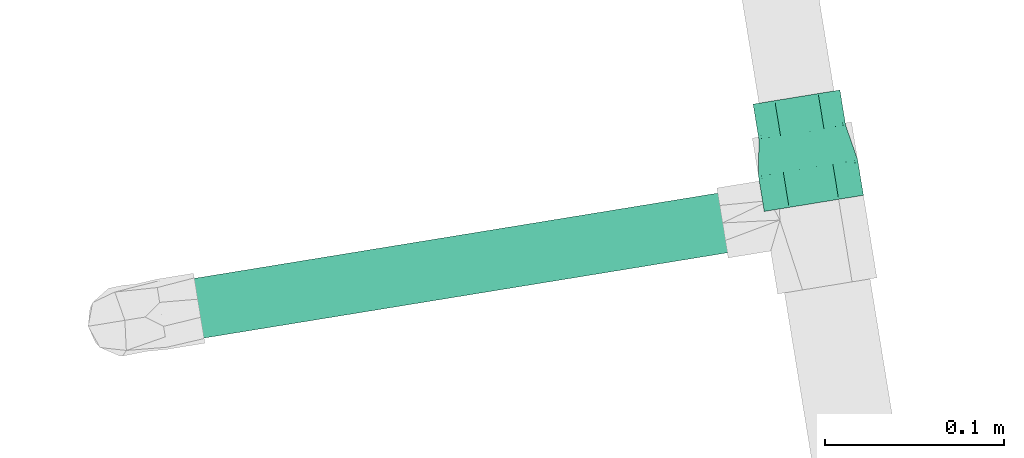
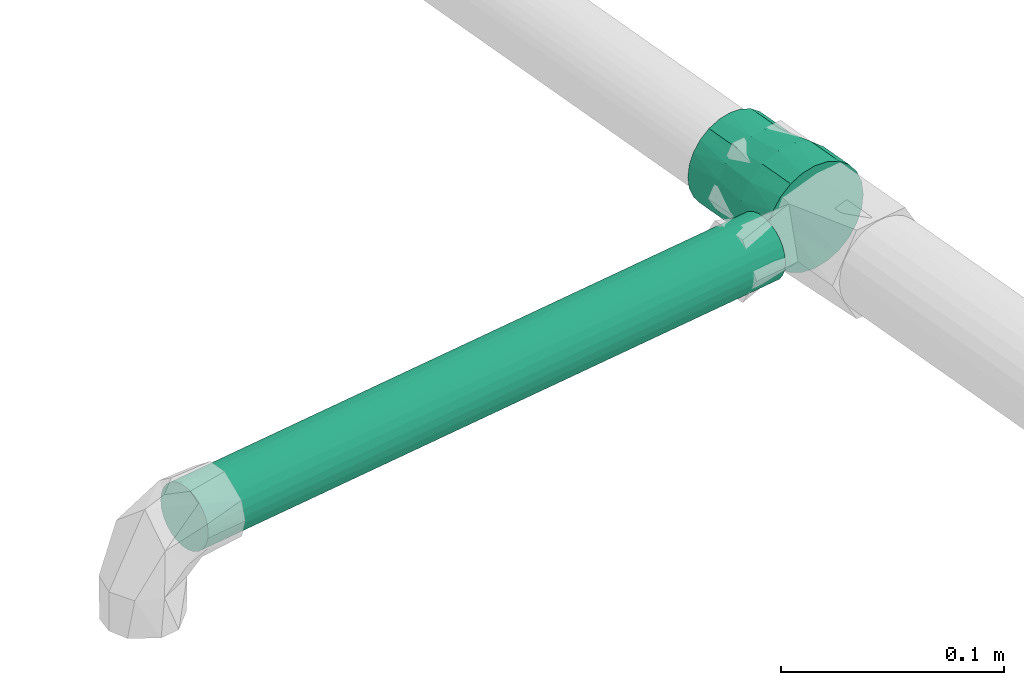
# One storey, part 29 of 56: 1 flow fitting, 1 flow segment.
"""IFC2X3 building model written with IfcOpenShell, lengths in millimetres."""

from ifc_helpers import new_model, entity, si_unit, converted_unit, derived_unit, direction, frame, origin, origin_with_axes, origin_2d_with_axis, place, context, subcontext, project, spatial, circle, extrude, faceted_brep, source, transform, mapped, material, type_object, element, save


model = new_model("IFC2X3")

# Units and contexts
model_context = context("Model", 3, precision=0.01, world=origin(), true_north=direction((6.12323399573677e-17, 1.0)))
plan_context = context("Plan", 3, precision=1e-05, world=origin_with_axes())
body_context = subcontext(model_context, "Body", "Model", "MODEL_VIEW")
ifc_project = project(units=[converted_unit("PLANEANGLEUNIT", "DEGREE", entity("IfcPositiveLengthMeasure", 0.0174532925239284), si_unit("PLANEANGLEUNIT", "RADIAN"), dimensions=[0, 0, 0, 0, 0, 0, 0]), si_unit("AREAUNIT", "SQUARE_METRE"), si_unit("LENGTHUNIT", "METRE", prefix="MILLI"), si_unit("MASSUNIT", "GRAM", prefix="KILO"), si_unit("POWERUNIT", "WATT"), si_unit("PRESSUREUNIT", "PASCAL", prefix="KILO"), si_unit("FORCEUNIT", "NEWTON", prefix="KILO"), si_unit("ELECTRICVOLTAGEUNIT", "VOLT"), si_unit("ELECTRICCURRENTUNIT", "AMPERE"), si_unit("THERMODYNAMICTEMPERATUREUNIT", "DEGREE_CELSIUS"), si_unit("TIMEUNIT", "SECOND"), si_unit("VOLUMEUNIT", "CUBIC_METRE"), derived_unit("LINEARVELOCITYUNIT", [(si_unit("LENGTHUNIT", "METRE"), 1), (si_unit("TIMEUNIT", "SECOND"), -1)]), derived_unit("VOLUMETRICFLOWRATEUNIT", [(si_unit("VOLUMEUNIT", "CUBIC_METRE"), 1), (si_unit("TIMEUNIT", "SECOND"), -1)]), derived_unit("THERMALTRANSMITTANCEUNIT", [(si_unit("POWERUNIT", "WATT"), 1), (si_unit("THERMODYNAMICTEMPERATUREUNIT", "KELVIN"), -1), (si_unit("AREAUNIT", "SQUARE_METRE"), -1)]), derived_unit("SOUNDPRESSUREUNIT", [(si_unit("PRESSUREUNIT", "PASCAL"), 1)])], contexts=[model_context, plan_context])

# Site, building, storey
site_placement = place(None, frame((-3.09682673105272e-06, 1.93776733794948e-05, 0.0), z_axis=(0.0, 0.0, 1.0), x_axis=(-0.160806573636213, 0.986985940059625, 0.0)))
site = spatial("IfcSite", under=ifc_project, at=site_placement, Name="Default", CompositionType="ELEMENT")
building_placement = place(site_placement, frame((0.0, 0.0, 0.0), z_axis=(0.0, 0.0, 1.0), x_axis=(1.0, -2.77555756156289e-17, 0.0)))
building = spatial("IfcBuilding", under=site, at=building_placement, Name="Bygning (endres i Project Information)", CompositionType="ELEMENT")
storey_placement = place(building_placement, frame((0.0, 0.0, 51360.0000000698), z_axis=(0.0, 0.0, 1.0), x_axis=(1.0, -2.77555756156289e-17, 0.0)))
storey = spatial("IfcBuildingStorey", under=building, at=storey_placement, Name="H01-Nivå D+0,36", CompositionType="ELEMENT", Elevation=51360.0000000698)

# Flow fitting
ifc_material = material(Name="3320.001")
pipe_fitting_type = type_object("IfcPipeFittingType", Name="RS_53_PIF_UN_Reducing-Socket-EN10241_MC_gen:RS_53_PIF_UN_Reducing-Socket-EN10241_MC_gen", PredefinedType="NOTDEFINED", material=ifc_material)
shared_shape = source(origin(), body_context, "Body", "Brep", [
    faceted_brep([(0.0, 19.7989898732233, 19.7989898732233), (0.0, 24.2487113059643, 14.0), (0.0, 27.0459231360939, 7.24693326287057), (0.0, 28.0, 0.0), (0.0, 27.0459231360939, -7.24693326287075), (0.0, 24.2487113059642, -14.0), (0.0, 19.7989898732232, -19.7989898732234), (0.0, 14.0, -24.2487113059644), (0.0, 7.24693326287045, -27.0459231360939), (0.0, 0.0, -28.0), (0.0, -7.2469332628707, -27.0459231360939), (0.0, -14.0, -24.2487113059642), (0.0, -19.7989898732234, -19.7989898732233), (0.0, -24.2487113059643, -14.0), (0.0, -27.0459231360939, -7.24693326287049), (0.0, -28.0, 0.0), (0.0, -27.0459231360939, 7.24693326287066), (0.0, -24.2487113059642, 14.0), (0.0, -19.7989898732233, 19.7989898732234), (0.0, -14.0, 24.2487113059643), (0.0, -7.24693326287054, 27.0459231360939), (0.0, 0.0, 28.0), (0.0, 7.24693326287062, 27.0459231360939), (0.0, 14.0, 24.2487113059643), (20.0, -9.43067316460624, -25.9117989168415), (20.0, -21.4490865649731, -17.9982411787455), (20.0, -23.8802189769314, -13.7874602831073), (20.0, -26.3113513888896, -9.57667938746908), (20.0, -13.9996810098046, -24.248895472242), (20.0, -17.7243837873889, -21.1235683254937), (20.0, -27.1556756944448, -4.78833969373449), (20.0, -4.86166531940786, -27.5747023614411), (20.0, 4.86275354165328, -27.5745104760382), (20.0, 0.000544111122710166, -27.5746064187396), (20.0, -28.0, 0.0), (20.0, 9.43169575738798, -25.9114267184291), (20.0, 14.0006379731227, -24.2483429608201), (20.0, 26.3117293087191, -9.57564101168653), (20.0, 23.8807630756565, -13.7865178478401), (20.0, 21.449796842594, -17.9973946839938), (20.0, 17.7252174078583, -21.122868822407), (20.0, 28.0, 0.0), (20.0, 21.4497968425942, 17.9973946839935), (20.0, 23.8807630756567, 13.7865178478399), (20.0, 26.3117293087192, 9.57564101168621), (20.0, 14.0006379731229, 24.24834296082), (20.0, 17.7252174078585, 21.1228688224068), (20.0, 4.86275354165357, 27.5745104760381), (20.0, 9.43169575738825, 25.9114267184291), (20.0, -4.86166531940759, 27.5747023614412), (20.0, 0.000544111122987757, 27.5746064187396), (20.0, -27.1556756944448, 4.78833969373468), (20.0, -9.43067316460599, 25.9117989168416), (20.0, -13.9996810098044, 24.2488954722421), (20.0, -17.7243837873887, 21.1235683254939), (20.0, -21.449086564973, 17.9982411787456), (20.0, -26.3113513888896, 9.57667938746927), (20.0, -23.8802189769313, 13.7874602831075), (40.0, 24.5000000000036, 0.0), (40.0, 23.0225328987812, -8.37931852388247), (40.0, 18.7681935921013, -15.7481716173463), (40.0, -12.2499395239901, -21.2176573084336), (40.0, -15.5089992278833, -18.482994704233), (40.0, 12.2501209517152, -21.2175525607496), (40.0, 20.8953632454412, -12.0637450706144), (40.0, 15.5091572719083, -18.4828620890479), (40.0, 4.25449497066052, -24.1277697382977), (40.0, 0.000103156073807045, -24.1277879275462), (40.0, 8.25230796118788, -22.6726611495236), (40.0, -4.25428865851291, -24.1278061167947), (40.0, -8.25211409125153, -22.6727317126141), (40.0, -18.7680589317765, -15.7483321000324), (40.0, -20.8952600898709, -12.0639237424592), (40.0, -23.6863464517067, -4.61444575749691), (40.0, -23.0224612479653, -8.37951538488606), (40.0, -23.7612306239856, -4.18975769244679), (40.0, -24.4999999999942, 0.0), (40.0, -23.7612306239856, 4.1897576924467), (40.0, -23.6863464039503, 4.61444602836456), (40.0, -12.2499395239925, 21.2176573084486), (40.0, 15.509157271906, 18.4828620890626), (40.0, 12.250120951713, 21.2175525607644), (40.0, -20.8952600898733, 12.0639237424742), (40.0, -18.7680589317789, 15.7483321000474), (40.0, -4.2542886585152, 24.1278061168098), (40.0, -15.5089992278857, 18.482994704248), (40.0, -23.0224612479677, 8.37951538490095), (40.0, -8.25211409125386, 22.6727317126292), (40.0, 4.25449497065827, 24.1277697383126), (40.0, 18.7681935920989, 15.7481716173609), (40.0, 8.25230796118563, 22.6726611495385), (40.0, 23.0225328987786, 8.37931852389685), (40.0, 0.000103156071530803, 24.1277879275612), (40.0, 20.8953632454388, 12.0637450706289), (60.0, 0.0, -24.5), (60.0, 6.34106660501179, -23.6651827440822), (60.0, 12.25, -21.2176223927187), (60.0, 17.3241161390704, -17.3241161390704), (60.0, 21.2176223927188, -12.25), (60.0, 23.6651827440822, -6.34106660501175), (60.0, 24.5, 0.0), (60.0, 23.6651827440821, 6.34106660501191), (60.0, 21.2176223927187, 12.2500000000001), (60.0, 17.3241161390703, 17.3241161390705), (60.0, 12.2499999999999, 21.2176223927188), (60.0, 6.34106660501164, 23.6651827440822), (60.0, 0.0, 24.5), (60.0, -6.34106660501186, 23.6651827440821), (60.0, -12.2500000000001, 21.2176223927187), (60.0, -17.3241161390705, 17.3241161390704), (60.0, -21.2176223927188, 12.2499999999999), (60.0, -23.6651827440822, 6.34106660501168), (60.0, -24.5, 0.0), (60.0, -23.6651827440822, -6.34106660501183), (60.0, -21.2176223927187, -12.2500000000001), (60.0, -17.3241161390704, -17.3241161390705), (60.0, -12.25, -21.2176223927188), (60.0, -6.34106660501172, -23.6651827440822)], [[[0, 1, 2, 3, 4, 5, 6, 7, 8, 9, 10, 11, 12, 13, 14, 15, 16, 17, 18, 19, 20, 21, 22, 23]], [[24, 11, 10]], [[13, 12, 25]], [[13, 25, 26, 27]], [[28, 29, 11]], [[14, 27, 30]], [[30, 15, 14]], [[13, 27, 14]], [[10, 31, 24]], [[25, 12, 29]], [[9, 32, 33, 31]], [[24, 28, 11]], [[11, 29, 12]], [[30, 34, 15]], [[32, 9, 8]], [[35, 7, 36]], [[5, 37, 38, 39]], [[7, 35, 8]], [[5, 4, 37]], [[6, 39, 40]], [[32, 8, 35]], [[5, 39, 6]], [[40, 36, 7]], [[4, 41, 37]], [[4, 3, 41]], [[9, 31, 10]], [[40, 7, 6]], [[41, 3, 2]], [[1, 0, 42]], [[1, 42, 43, 44]], [[45, 46, 23]], [[44, 41, 2]], [[22, 47, 48]], [[42, 0, 46]], [[21, 49, 50, 47]], [[23, 46, 0]], [[49, 21, 20]], [[21, 47, 22]], [[15, 51, 16]], [[52, 19, 53]], [[1, 44, 2]], [[48, 23, 22]], [[54, 19, 18]], [[15, 34, 51]], [[19, 52, 20]], [[18, 55, 54]], [[49, 20, 52]], [[48, 45, 23]], [[17, 55, 18]], [[56, 17, 16]], [[16, 51, 56]], [[54, 53, 19]], [[57, 55, 17, 56]], [[37, 58, 59]], [[40, 39, 60]], [[29, 61, 62]], [[38, 37, 59]], [[35, 36, 63]], [[60, 39, 64]], [[37, 41, 58]], [[63, 36, 65]], [[64, 39, 38]], [[33, 66, 67]], [[65, 36, 40]], [[68, 32, 35]], [[66, 32, 68]], [[67, 69, 31]], [[24, 31, 69]], [[62, 25, 29]], [[61, 28, 70]], [[26, 71, 72]], [[27, 73, 30]], [[71, 26, 25]], [[38, 59, 64]], [[29, 28, 61]], [[74, 73, 27]], [[30, 73, 75, 76]], [[72, 27, 26]], [[40, 60, 65]], [[71, 25, 62]], [[72, 74, 27]], [[34, 30, 76]], [[32, 66, 33]], [[67, 31, 33]], [[70, 28, 24]], [[24, 69, 70]], [[35, 63, 68]], [[51, 76, 77, 78]], [[54, 79, 53]], [[80, 45, 81]], [[82, 83, 57]], [[49, 52, 84]], [[79, 54, 85]], [[86, 56, 78]], [[76, 51, 34]], [[54, 55, 85]], [[52, 53, 87]], [[78, 56, 51]], [[56, 86, 82]], [[83, 55, 57]], [[88, 47, 50]], [[81, 45, 48]], [[89, 46, 80]], [[84, 52, 87]], [[81, 48, 90]], [[91, 58, 44]], [[91, 44, 43]], [[87, 53, 79]], [[89, 42, 46]], [[88, 50, 92]], [[47, 90, 48]], [[93, 43, 42]], [[46, 45, 80]], [[85, 55, 83]], [[91, 43, 93]], [[44, 58, 41]], [[56, 82, 57]], [[90, 47, 88]], [[92, 50, 49]], [[93, 42, 89]], [[92, 49, 84]], [[94, 95, 96, 97, 98, 99, 100, 101, 102, 103, 104, 105, 106, 107, 108, 109, 110, 111, 112, 113, 114, 115, 116, 117]], [[58, 100, 99]], [[98, 97, 60]], [[98, 60, 64, 59]], [[63, 65, 96]], [[59, 58, 99]], [[95, 66, 68]], [[60, 97, 65]], [[94, 69, 67, 66]], [[96, 65, 97]], [[94, 117, 69]], [[94, 66, 95]], [[116, 70, 117]], [[116, 61, 70]], [[114, 113, 74]], [[68, 96, 95]], [[62, 61, 116]], [[112, 76, 75]], [[98, 59, 99]], [[70, 69, 117]], [[114, 71, 115]], [[115, 71, 62]], [[62, 116, 115]], [[114, 74, 72, 71]], [[112, 75, 113]], [[68, 63, 96]], [[113, 75, 73, 74]], [[87, 108, 107]], [[110, 109, 83]], [[110, 83, 82, 86]], [[79, 85, 108]], [[111, 86, 78, 77]], [[77, 112, 111]], [[110, 86, 111]], [[107, 84, 87]], [[83, 109, 85]], [[106, 88, 92, 84]], [[87, 79, 108]], [[108, 85, 109]], [[77, 76, 112]], [[88, 106, 105]], [[90, 104, 81]], [[102, 91, 93, 89]], [[104, 90, 105]], [[102, 101, 91]], [[103, 89, 80]], [[88, 105, 90]], [[102, 89, 103]], [[80, 81, 104]], [[101, 58, 91]], [[101, 100, 58]], [[106, 84, 107]], [[80, 104, 103]]]),
])
flow_fitting_placement = place(storey_placement, frame((1015161.53557438, -395336.905112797, 3200.0), z_axis=(0.0, 0.0, 1.0), x_axis=(1.0, -2.77555756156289e-17, 0.0)))
element("IfcFlowFitting", 1, at=flow_fitting_placement, inside=storey, type_object=pipe_fitting_type, material=ifc_material, Name="RS_53_PIF_UN_Reducing-Socket-EN10241_MC_gen:RS_53_PIF_UN_Reducing-Socket-EN10241_MC_gen", ObjectType="RS_53_PIF_UN_Reducing-Socket-EN10241_MC_gen:RS_53_PIF_UN_Reducing-Socket-EN10241_MC_gen", context=body_context, shape_type="MappedRepresentation", body=[
    mapped(shared_shape, transform((0.0, 0.0, 0.0), scale=1.0)),
])

# Flow segment
pipe_segment_type = type_object("IfcPipeSegmentType", Name="Pipe Types:Stålrør sveist og gjenget", PredefinedType="NOTDEFINED", material=ifc_material)
flow_segment_placement = place(storey_placement, frame((0.0, 0.0, 0.0), z_axis=(0.0, 0.0, 1.0), x_axis=(1.0, -2.77555756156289e-17, 0.0)))
element("IfcFlowSegment", 2, at=flow_segment_placement, inside=storey, type_object=pipe_segment_type, Name="Pipe Types:Stålrør sveist og gjenget", ObjectType="Pipe Types:Stålrør sveist og gjenget", context=body_context, shape_type="SweptSolid", body=[
    extrude(circle(Radius=16.8500004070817, at=origin_2d_with_axis()), frame((1015158.93557438, -395304.005112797, 3200.0), z_axis=(0.0, 1.0, 0.0), x_axis=(1.0, 0.0, 0.0)), (0.0, 0.0, 1.0), 333.613952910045),
])

save(model, "model.ifc")
